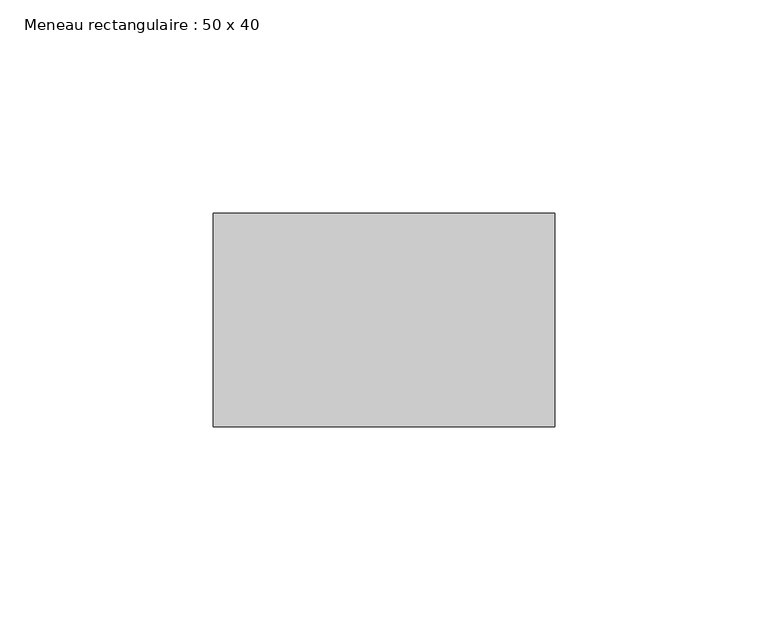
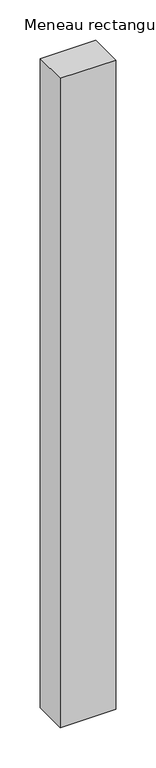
"""IFC4 building model written with IfcOpenShell, lengths in millimetres: member geometry, Meneau rectangulaire : 50 x 40."""

import ifcopenshell
import ifcopenshell.guid

model = None  # the IFC model being written
_history = None  # IfcOwnerHistory: only IFC2X3 demands one
_inside = {}  # id of a spatial element -> (the spatial element, [elements in it])
_under = {}  # id of a project, library or spatial element -> (it, [spatial elements below it])
_declared = {}  # id of a project -> (the project, [libraries it declares])
_typed = {}  # id of a type object -> (the type object, [elements of that type])
_made_of = {}  # id of a material, layer set ... -> (it, [elements and type objects made of it])


def new_model(schema):
    """Start an empty IFC model of exactly this schema.

    Asked for "IFC4X3", IfcOpenShell would pick the latest addendum, in which some entities
    have other attributes; the version numbers below select the first issue.
    IFC2X3 requires an IfcOwnerHistory on every rooted entity: one is made here for all.
    """
    global model, _history
    if schema == "IFC4X3":
        model = ifcopenshell.file(schema_version=(4, 3, 0, 0))
    else:
        model = ifcopenshell.file(schema=schema)
    _inside.clear()
    _under.clear()
    _declared.clear()
    _typed.clear()
    _made_of.clear()
    _history = None
    if model.schema == "IFC2X3":
        org = make("IfcOrganization", Name="unknown")
        user = make(
            "IfcPersonAndOrganization",
            ThePerson=make("IfcPerson", FamilyName="unknown"),
            TheOrganization=org,
        )
        app = make(
            "IfcApplication",
            ApplicationDeveloper=org,
            Version="unknown",
            ApplicationFullName="unknown",
            ApplicationIdentifier="unknown",
        )
        _history = make(
            "IfcOwnerHistory",
            OwningUser=user,
            OwningApplication=app,
            ChangeAction="ADDED",
            CreationDate=0,
        )
    return model


def make(cls, **values):
    """One entity of the class cls with the attributes given. An attribute that is None is left unset."""
    return model.create_entity(
        cls, **{name: value for name, value in values.items() if value is not None}
    )


def rooted(cls, **values):
    """An entity with a GlobalId (a new one), such as an element, a storey or a relation."""
    return make(cls, GlobalId=ifcopenshell.guid.new(), OwnerHistory=_history, **values)


def si_unit(unit_type, name, prefix=None):
    """IfcSIUnit, for example si_unit("LENGTHUNIT", "METRE", prefix="MILLI")."""
    return make("IfcSIUnit", UnitType=unit_type, Prefix=prefix, Name=name)


def assignment(units):
    """IfcUnitAssignment: the units of a project."""
    return None if units is None else make("IfcUnitAssignment", Units=units)


def point(xyz):
    """IfcCartesianPoint."""
    return None if xyz is None else make("IfcCartesianPoint", Coordinates=xyz)


def direction(xyz):
    """IfcDirection."""
    return None if xyz is None else make("IfcDirection", DirectionRatios=xyz)


def frame(location, z_axis=None, x_axis=None):
    """IfcAxis2Placement3D, a coordinate frame: its origin and axes. An axis left out is left unset."""
    return make(
        "IfcAxis2Placement3D",
        Location=point(location),
        Axis=direction(z_axis),
        RefDirection=direction(x_axis),
    )


def origin():
    """The frame at (0, 0, 0) with its axes left unset."""
    return frame((0.0, 0.0, 0.0))


def place(relative_to, where):
    """IfcLocalPlacement: puts the frame where relative to a parent placement (None: the world)."""
    return make(
        "IfcLocalPlacement", PlacementRelTo=relative_to, RelativePlacement=where
    )


def context(
    kind, dimensions, precision=None, world=None, true_north=None, identifier=None
):
    """IfcGeometricRepresentationContext, for example the 3D "Model" context."""
    return make(
        "IfcGeometricRepresentationContext",
        ContextIdentifier=identifier,
        ContextType=kind,
        CoordinateSpaceDimension=dimensions,
        Precision=precision,
        WorldCoordinateSystem=world,
        TrueNorth=true_north,
    )


def project(units=None, contexts=None):
    """IfcProject with its units and contexts."""
    return rooted(
        "IfcProject",
        Name="project",
        RepresentationContexts=contexts,
        UnitsInContext=assignment(units),
    )


def spatial(cls, under=None, at=None, **own):
    """A site, building, storey or space (cls), placed at a placement, below another one or the project."""
    s = rooted(cls, ObjectPlacement=at, **own)
    if under is not None:
        _under.setdefault(under.id(), (under, []))[1].append(s)
    return s


def polyline(points):
    """IfcPolyline through the points."""
    return make("IfcPolyline", Points=[point(p) for p in points])


def outline(outer, holes=None, kind="AREA"):
    """IfcArbitraryClosedProfileDef: a profile drawn as a closed curve; with holes, ...WithVoids."""
    if holes is None:
        return make("IfcArbitraryClosedProfileDef", ProfileType=kind, OuterCurve=outer)
    return make(
        "IfcArbitraryProfileDefWithVoids",
        ProfileType=kind,
        OuterCurve=outer,
        InnerCurves=holes,
    )


def extrude(swept, where, along, depth):
    """IfcExtrudedAreaSolid: the profile swept, set in the frame where, extruded along a direction by depth."""
    return make(
        "IfcExtrudedAreaSolid",
        SweptArea=swept,
        Position=where,
        ExtrudedDirection=direction(along),
        Depth=depth,
    )


def shape(context_of_items, identifier, shape_type, items):
    """IfcShapeRepresentation: the items that make up one representation, for example the "Body"."""
    return make(
        "IfcShapeRepresentation",
        ContextOfItems=context_of_items,
        RepresentationIdentifier=identifier,
        RepresentationType=shape_type,
        Items=items,
    )


def source(mapping_origin, context_of_items, identifier, shape_type, items):
    """IfcRepresentationMap: a shape defined once, which mapped items show again and again."""
    return make(
        "IfcRepresentationMap",
        MappingOrigin=mapping_origin,
        MappedRepresentation=shape(context_of_items, identifier, shape_type, items),
    )


def transform(
    local_origin,
    x_axis=None,
    y_axis=None,
    z_axis=None,
    scale=None,
    scale2=None,
    scale3=None,
    uniform=True,
):
    """IfcCartesianTransformationOperator3D, or its non-uniform kind. x_axis, y_axis, z_axis: its Axis1, 2, 3."""
    if uniform:
        return make(
            "IfcCartesianTransformationOperator3D",
            Axis1=direction(x_axis),
            Axis2=direction(y_axis),
            LocalOrigin=point(local_origin),
            Scale=scale,
            Axis3=direction(z_axis),
        )
    return make(
        "IfcCartesianTransformationOperator3DnonUniform",
        Axis1=direction(x_axis),
        Axis2=direction(y_axis),
        LocalOrigin=point(local_origin),
        Scale=scale,
        Axis3=direction(z_axis),
        Scale2=scale2,
        Scale3=scale3,
    )


def mapped(mapping_source, mapping_target):
    """IfcMappedItem: shows the shape of a source again, moved by a transform."""
    return make(
        "IfcMappedItem", MappingSource=mapping_source, MappingTarget=mapping_target
    )


def made_of(thing, what):
    """Note that an element or type object is made of a material, layer set ...; save() writes the relation."""
    if what is not None:
        _made_of.setdefault(what.id(), (what, []))[1].append(thing)
    return thing


def element(
    cls,
    number,
    at=None,
    inside=None,
    cuts=None,
    type_object=None,
    material=None,
    context=None,
    identifier="Body",
    shape_type=None,
    held_by="IfcProductDefinitionShape",
    body=None,
    shapes=None,
    **own,
):
    """One element of the class cls, such as IfcWall. Its Tag is "e" and its number.

    at: its placement. inside: the storey or other place that contains it. cuts: it is an
    opening in that element (IfcRelVoidsElement). A single representation is given by context,
    identifier, shape_type and body (its items); several are given by shapes. held_by: the class
    of the entity that holds the representations. save() writes the other relations.
    """
    e = rooted(cls, Tag="e%d" % number, ObjectPlacement=at, **own)
    if body is not None:
        shapes = [shape(context, identifier, shape_type, body)]
    if shapes is not None:
        e.Representation = make(held_by, Representations=shapes)
    if inside is not None:
        _inside.setdefault(inside.id(), (inside, []))[1].append(e)
    if cuts is not None:
        rooted(
            "IfcRelVoidsElement", RelatingBuildingElement=cuts, RelatedOpeningElement=e
        )
    if type_object is not None:
        _typed.setdefault(type_object.id(), (type_object, []))[1].append(e)
    return made_of(e, material)


def aggregate(whole, parts):
    """IfcRelAggregates: a whole, such as a stair, and the parts it consists of."""
    return rooted("IfcRelAggregates", RelatingObject=whole, RelatedObjects=parts)


def save(model, path):
    """Write the relations noted so far, then the file.

    IfcRelAggregates (storeys below a building ...), IfcRelContainedInSpatialStructure (elements
    in a storey), IfcRelDefinesByType, IfcRelAssociatesMaterial and IfcRelDeclares: one each for
    every whole, place, type object, material and project.
    """
    for whole, parts in _under.values():
        aggregate(whole, parts)
    for where, things in _inside.values():
        rooted(
            "IfcRelContainedInSpatialStructure",
            RelatedElements=things,
            RelatingStructure=where,
        )
    for kind, things in _typed.values():
        rooted("IfcRelDefinesByType", RelatedObjects=things, RelatingType=kind)
    for what, things in _made_of.values():
        rooted("IfcRelAssociatesMaterial", RelatedObjects=things, RelatingMaterial=what)
    for by, libraries in _declared.values():
        rooted("IfcRelDeclares", RelatingContext=by, RelatedDefinitions=libraries)
    model.write(path)


def meneau_rectangulaire_50_x_40_7dba0c70(model_context):
    return source(origin(), model_context, "Body", "SweptSolid", [
        extrude(outline(polyline([(40.0, 0.0), (40.0, -50.0), (-40.0, -50.0), (-40.0, 0.0), (40.0, 0.0)])), frame((0.0, 0.0, -988.0), z_axis=(0.0, 0.0, 1.0), x_axis=(1.0, 0.0, 0.0)), (0.0, 0.0, 1.0), 988.0),
    ])


if __name__ == "__main__":
    model = new_model("IFC4")
    model_context = context("Model", 3, world=origin())
    ifc_project = project(units=[si_unit("LENGTHUNIT", "METRE", prefix="MILLI")], contexts=[model_context])
    site = spatial("IfcSite", under=ifc_project)
    building = spatial("IfcBuilding", under=site)
    placement = place(None, origin())
    meneau_rectangulaire_50_x_40_shape = meneau_rectangulaire_50_x_40_7dba0c70(model_context)
    element("IfcMember", 1, ObjectType="Meneau rectangulaire : 50 x 40", at=placement, inside=building, context=model_context, shape_type="MappedRepresentation", body=[
        mapped(meneau_rectangulaire_50_x_40_shape, transform((0.0, 0.0, 0.0), x_axis=(1.0, 0.0, 0.0), y_axis=(0.0, 1.0, 0.0), z_axis=(0.0, 0.0, 1.0))),
    ])
    save(model, "model.ifc")
